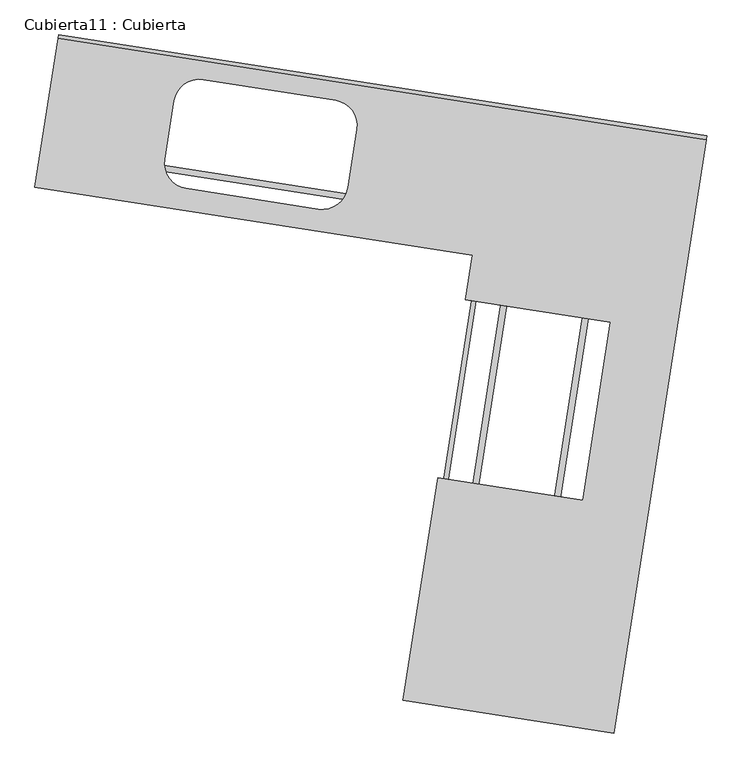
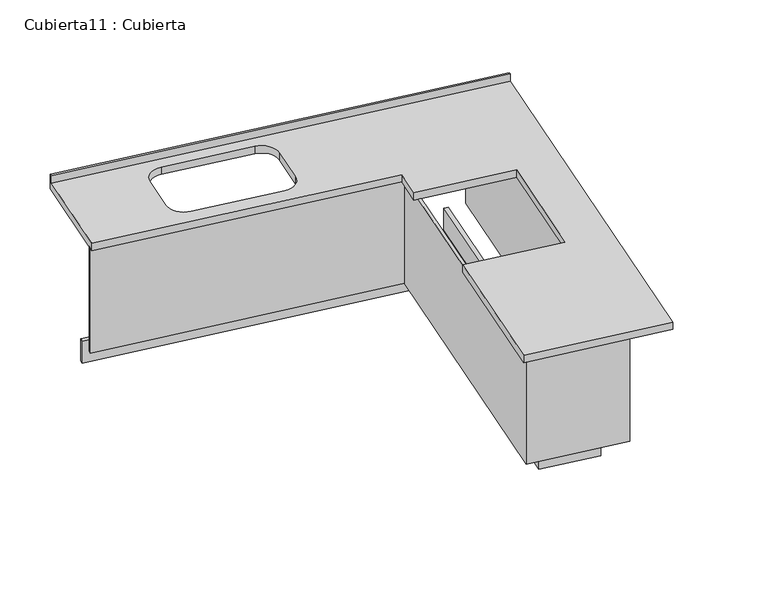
"""IFC4 building model written with IfcOpenShell, lengths in millimetres: furniture geometry, Cubierta11 : Cubierta."""

from ifc_helpers import new_model, si_unit, frame, origin, place, context, project, spatial, polyline, circle_curve, outline, extrude, source, transform, mapped, element, save
from ifc_brep_helpers import plane_surface, revolved_surface, advanced_brep


def cubierta11_cubierta_65d87b8d(model_context):
    return source(origin(), model_context, "Body", "SolidModel", [
        extrude(outline(polyline([(-30166.3985598, -72366.0541424), (-30536.9245463, -72308.3004382), (-30244.3057771, -70430.9687632), (-32240.205788, -70119.8688056), (-32236.355541, -70095.1670729), (-30215.7537974, -70410.1172775), (-30508.3725666, -72287.4489525), (-30187.2500455, -72337.5021627), (-29823.7867321, -70005.658606), (-29799.0849994, -70009.508853), (-30166.3985598, -72366.0541424)])), frame((0.0, 0.0, 3200.0), z_axis=(0.0, 0.0, 1.0), x_axis=(1.0, 0.0, 0.0)), (0.0, 0.0, 1.0), 150.0),
        extrude(outline(polyline([(-30679.6844447, -72412.5578668), (-30387.0656755, -70535.2261918), (-32259.4570229, -70243.3774691), (-32256.3768253, -70223.6160829), (-30364.2240917, -70518.5450032), (-30656.842861, -72395.8766783), (-30078.8223198, -72485.972457), (-29695.337722, -70025.6798903), (-29675.5763359, -70028.7600879), (-30062.1411312, -72508.8140408), (-30679.6844447, -72412.5578668)])), frame((0.0, 0.0, 3350.0), z_axis=(0.0, 0.0, 1.0), x_axis=(1.0, 0.0, 0.0)), (0.0, 0.0, 1.0), 720.0),
        advanced_brep(
        [(-32263.3072699, -70268.0792018, 4120.0), (-30415.6176552, -70556.0776775, 4120.0), (-30444.8795322, -70743.8108459, 4120.0), (-29832.2765614, -70839.2969711, 4120.0), (-29949.3240696, -71590.2296451, 4120.0), (-30561.9270405, -71494.7435199, 4120.0), (-30708.2364244, -72433.4093524, 4120.0), (-29818.9740513, -72572.0182432, 4120.0), (-29428.5590089, -70067.2625577, 4120.0), (-32165.5109966, -69640.6551913, 4120.0), (-31713.2748637, -70151.3975332, 4120.0), (-31674.7723939, -69904.3802062, 4120.0), (-31552.5699208, -69815.1358474, 4120.0), (-30994.3107619, -69902.1514292, 4120.0), (-30905.0664031, -70024.3539022, 4120.0), (-30943.5688729, -70271.3712292, 4120.0), (-31065.7713459, -70360.615588, 4120.0), (-31624.0305048, -70273.6000062, 4120.0), (-29426.2488607, -70052.441518, 4070.0), (-29818.9740513, -72572.0182432, 4070.0), (-30708.2364244, -72433.4093524, 4070.0), (-30561.9270405, -71494.7435199, 4070.0), (-29949.3240696, -71590.2296451, 4070.0), (-29832.2765614, -70839.2969711, 4070.0), (-30444.8795322, -70743.8108459, 4070.0), (-30415.6176552, -70556.0776775, 4070.0), (-32263.3072699, -70268.0792018, 4070.0), (-32163.2008484, -69625.8341516, 4070.0), (-31713.2748637, -70151.3975332, 4070.0), (-31624.0305048, -70273.6000062, 4070.0), (-31065.7713459, -70360.615588, 4070.0), (-30943.5688729, -70271.3712292, 4070.0), (-30905.0664031, -70024.3539022, 4070.0), (-30994.3107619, -69902.1514292, 4070.0), (-31552.5699208, -69815.1358474, 4070.0), (-31674.7723939, -69904.3802062, 4070.0), (-29426.2488607, -70052.4415181, 4170.0), (-29428.5590089, -70067.2625577, 4170.0), (-32163.2008484, -69625.8341517, 4170.0), (-32165.5109966, -69640.6551913, 4170.0)],
        [
            (0, 1),
            (1, 2),
            (2, 3),
            (3, 4),
            (4, 5),
            (5, 6),
            (6, 7),
            (7, 8),
            (8, 9),
            (9, 0),
            (10, 11),
            (11, 12, circle_curve(frame((-31569.0489779, -69920.8592633, 4120.0), z_axis=(0.0, 0.0, -1.0), x_axis=(0.9880693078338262, -0.15400987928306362, 0.0)), 107.0)),
            (12, 13),
            (13, 14, circle_curve(frame((-31010.789819, -70007.8748451, 4120.0), z_axis=(0.0, 0.0, -1.0), x_axis=(0.9880693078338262, -0.15400987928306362, 0.0)), 107.0)),
            (14, 15),
            (15, 16, circle_curve(frame((-31049.2922888, -70254.8921721, 4120.0), z_axis=(0.0, 0.0, -1.0), x_axis=(0.9880693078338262, -0.15400987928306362, 0.0)), 107.0)),
            (16, 17),
            (17, 10, circle_curve(frame((-31607.5514477, -70167.8765903, 4120.0), z_axis=(0.0, 0.0, -1.0), x_axis=(0.9880693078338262, -0.15400987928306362, 0.0)), 107.0)),
            (18, 19),
            (19, 20),
            (20, 21),
            (21, 22),
            (22, 23),
            (23, 24),
            (24, 25),
            (25, 26),
            (26, 27),
            (27, 18),
            (28, 29, circle_curve(frame((-31607.5514477, -70167.8765903, 4070.0), z_axis=(0.0, 0.0, 1.0), x_axis=(0.9880693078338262, -0.15400987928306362, 0.0)), 107.0)),
            (29, 30),
            (30, 31, circle_curve(frame((-31049.2922888, -70254.8921721, 4070.0), z_axis=(0.0, 0.0, 1.0), x_axis=(0.9880693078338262, -0.15400987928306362, 0.0)), 107.0)),
            (31, 32),
            (32, 33, circle_curve(frame((-31010.789819, -70007.8748451, 4070.0), z_axis=(0.0, 0.0, 1.0), x_axis=(0.9880693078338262, -0.15400987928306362, 0.0)), 107.0)),
            (33, 34),
            (34, 35, circle_curve(frame((-31569.0489779, -69920.8592633, 4070.0), z_axis=(0.0, 0.0, 1.0), x_axis=(0.9880693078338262, -0.15400987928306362, 0.0)), 107.0)),
            (35, 28),
            (36, 37),
            (37, 8),
            (7, 19),
            (18, 36),
            (36, 38),
            (38, 39),
            (39, 37),
            (39, 9),
            (27, 38),
            (26, 0),
            (25, 1),
            (10, 28),
            (35, 11),
            (34, 12),
            (33, 13),
            (32, 14),
            (31, 15),
            (30, 16),
            (29, 17),
            (5, 21),
            (20, 6),
            (24, 2),
            (23, 3),
            (22, 4),
        ],
        [
            plane_surface(frame((-31684.1423176, -69700.5047703, 4120.0), z_axis=(0.0, 0.0, 1.0), x_axis=(-0.9880693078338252, 0.15400987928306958, 0.0))),
            plane_surface(frame((-31684.1423176, -69700.5047703, 4070.0), z_axis=(0.0, 0.0, -1.0), x_axis=(0.9880693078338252, -0.15400987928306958, 0.0))),
            plane_surface(frame((-29426.2488607, -70052.4415181, 3220.0), z_axis=(0.9880693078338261, -0.1540098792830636, 0.0), x_axis=(0.0, 0.0, 1.0))),
            plane_surface(frame((-29426.2488607, -70052.4415181, 4170.0), z_axis=(0.0, 0.0, 1.0), x_axis=(-0.9880693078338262, 0.15400987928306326, 0.0))),
            plane_surface(frame((-29428.5590089, -70067.2625577, 4170.0), z_axis=(-0.15400987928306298, -0.9880693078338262, 0.0), x_axis=(-0.9880693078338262, 0.15400987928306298, 0.0))),
            plane_surface(frame((-29426.2488607, -70052.4415181, 4120.0), z_axis=(0.15400987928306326, 0.9880693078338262, 0.0), x_axis=(-0.9880693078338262, 0.15400987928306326, 0.0))),
            plane_surface(frame((-32163.2008484, -69625.8341517, 3220.0), z_axis=(-0.9880693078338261, 0.1540098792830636, 0.0), x_axis=(0.0, 0.0, 1.0))),
            plane_surface(frame((-32263.3072699, -70268.0792018, 4120.0), z_axis=(-0.15400987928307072, -0.988069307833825, 0.0), x_axis=(0.0, 0.0, -1.0))),
            plane_surface(frame((-31713.2748637, -70151.3975332, 4120.0), z_axis=(0.9880693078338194, -0.1540098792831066, 0.0), x_axis=(0.0, 0.0, -1.0))),
            revolved_surface(polyline([(-31463.32556196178, -69937.33832038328, 4070.0000000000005), (-31463.32556196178, -69937.33832038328, 4120.0)]), (-31569.0489779, -69920.8592633, 3220.0), (0.0, 0.0, -1.0000000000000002)),
            plane_surface(frame((-31552.5699208, -69815.1358474, 4120.0), z_axis=(-0.15400987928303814, -0.9880693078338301, 0.0), x_axis=(0.0, 0.0, -1.0))),
            revolved_surface(polyline([(-30905.06640306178, -70024.35390218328, 4070.0000000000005), (-30905.06640306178, -70024.35390218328, 4120.0)]), (-31010.789819, -70007.8748451, 3220.0), (0.0, 0.0, -1.0000000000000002)),
            plane_surface(frame((-30905.0664031, -70024.3539022, 4120.0), z_axis=(-0.9880693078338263, 0.15400987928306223, 0.0), x_axis=(0.0, 0.0, -1.0))),
            revolved_surface(polyline([(-30943.56887286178, -70271.37122918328, 4070.0000000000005), (-30943.56887286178, -70271.37122918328, 4120.0)]), (-31049.2922888, -70254.8921721, 3220.0), (0.0, 0.0, -1.0000000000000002)),
            plane_surface(frame((-31065.7713459, -70360.615588, 4120.0), z_axis=(0.1540098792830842, 0.9880693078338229, 0.0), x_axis=(0.0, 0.0, -1.0))),
            revolved_surface(polyline([(-31501.82803176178, -70184.35564738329, 4070.0000000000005), (-31501.82803176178, -70184.35564738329, 4120.0)]), (-31607.5514477, -70167.8765903, 3220.0), (0.0, 0.0, -1.0000000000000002)),
            plane_surface(frame((-30561.9270405, -71494.7435199, 4120.0), z_axis=(-0.9880693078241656, 0.1540098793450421, 0.0), x_axis=(0.0, 0.0, -1.0))),
            plane_surface(frame((-30708.2364244, -72433.4093524, 4120.0), z_axis=(-0.15400987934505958, -0.9880693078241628, 0.0), x_axis=(0.0, 0.0, -1.0))),
            plane_surface(frame((-30415.6176552, -70556.0776775, 4120.0), z_axis=(-0.9880693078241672, 0.15400987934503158, 0.0), x_axis=(0.0, 0.0, -1.0))),
            plane_surface(frame((-30444.8795322, -70743.8108459, 4120.0), z_axis=(-0.15400987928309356, -0.9880693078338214, 0.0), x_axis=(0.0, 0.0, -1.0))),
            plane_surface(frame((-29832.2765614, -70839.2969711, 4120.0), z_axis=(-0.9880693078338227, 0.15400987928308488, 0.0), x_axis=(0.0, 0.0, -1.0))),
            plane_surface(frame((-29949.3240696, -71590.2296451, 4120.0), z_axis=(0.15400987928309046, 0.988069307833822, 0.0), x_axis=(0.0, 0.0, -1.0))),
        ],
        [
            (0, [[1, 2, 3, 4, 5, 6, 7, 8, 9, 10], [11, 12, 13, 14, 15, 16, 17, 18]]),
            (1, [[19, 20, 21, 22, 23, 24, 25, 26, 27, 28], [29, 30, 31, 32, 33, 34, 35, 36]]),
            (2, [[37, 38, -8, 39, -19, 40]]),
            (3, [[-37, 41, 42, 43]]),
            (4, [[-38, -43, 44, -9]]),
            (5, [[-40, -28, 45, -41]]),
            (6, [[-42, -45, -27, 46, -10, -44]]),
            (7, [[-1, -46, -26, 47]]),
            (8, [[-11, 48, -36, 49]]),
            (9, [[-12, -49, -35, 50]]),
            (10, [[-13, -50, -34, 51]]),
            (11, [[-14, -51, -33, 52]]),
            (12, [[-15, -52, -32, 53]]),
            (13, [[-16, -53, -31, 54]]),
            (14, [[-17, -54, -30, 55]]),
            (15, [[-18, -55, -29, -48]]),
            (16, [[-6, 56, -21, 57]]),
            (17, [[-7, -57, -20, -39]]),
            (18, [[-2, -47, -25, 58]]),
            (19, [[-3, -58, -24, 59]]),
            (20, [[-4, -59, -23, 60]]),
            (21, [[-5, -60, -22, -56]]),
        ],
    ),
    ])


if __name__ == "__main__":
    model = new_model("IFC4")
    model_context = context("Model", 3, world=origin())
    ifc_project = project(units=[si_unit("LENGTHUNIT", "METRE", prefix="MILLI")], contexts=[model_context])
    site = spatial("IfcSite", under=ifc_project)
    building = spatial("IfcBuilding", under=site)
    placement = place(None, origin())
    cubierta11_cubierta_shape = cubierta11_cubierta_65d87b8d(model_context)
    element("IfcFurniture", 1, ObjectType="Cubierta11 : Cubierta", at=placement, inside=building, context=model_context, shape_type="MappedRepresentation", body=[
        mapped(cubierta11_cubierta_shape, transform((0.0, 0.0, 0.0), x_axis=(1.0, 0.0, 0.0), y_axis=(0.0, 1.0, 0.0), z_axis=(0.0, 0.0, 1.0))),
    ])
    save(model, "model.ifc")
